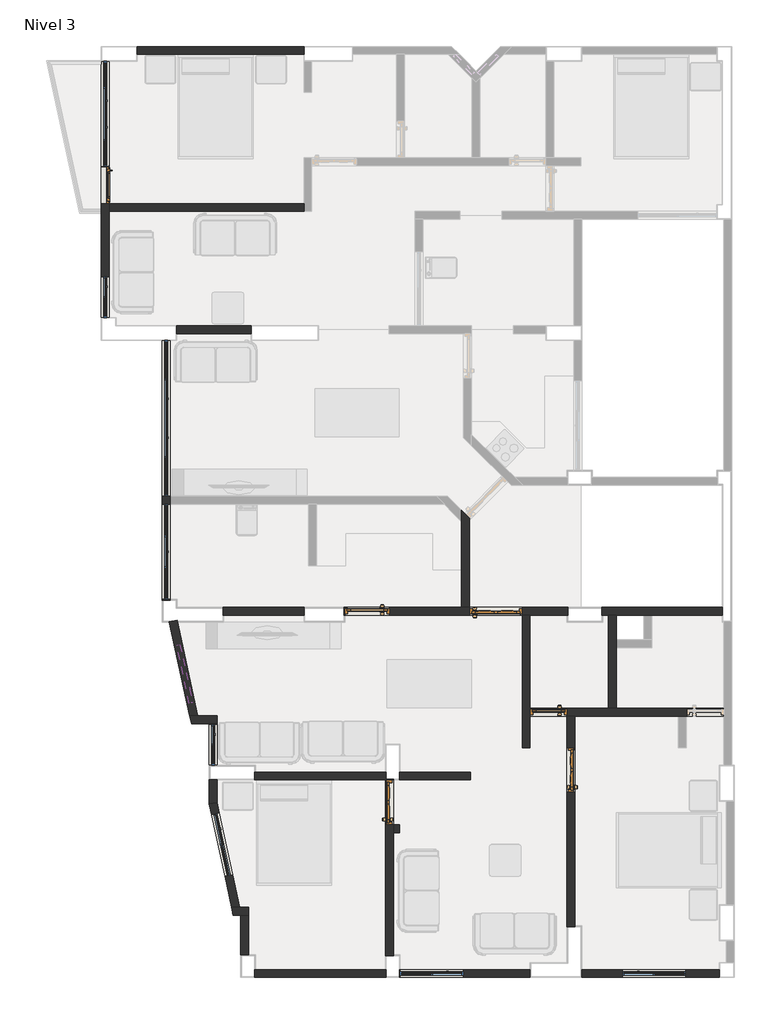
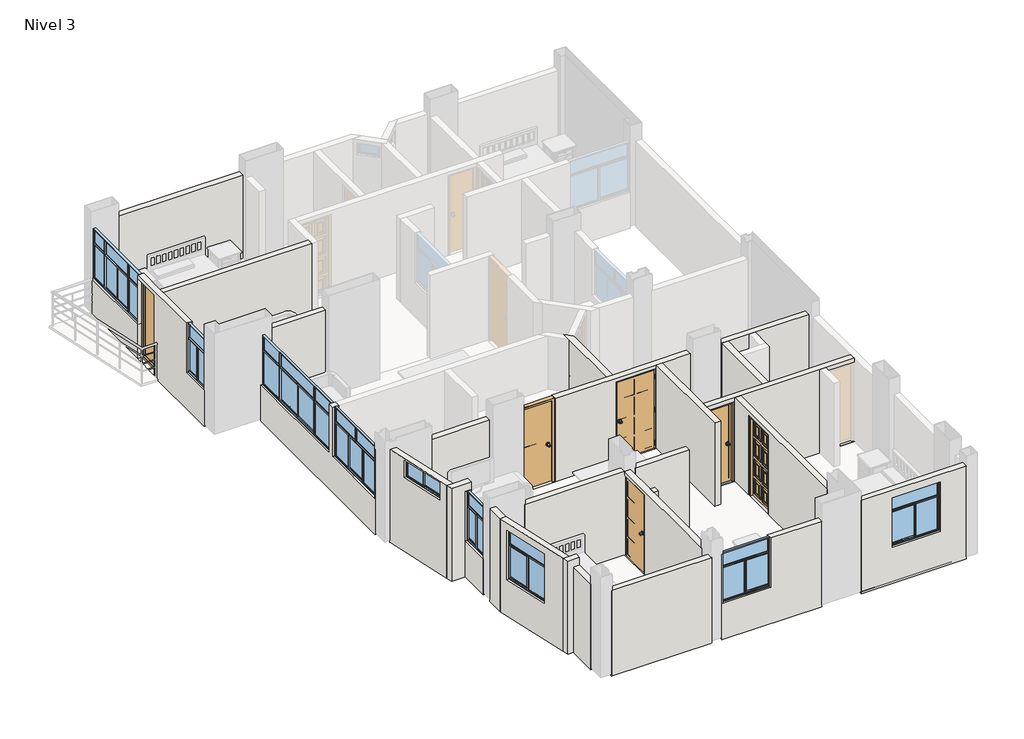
# One storey, part 1 of 4: 27 walls, 9 windows, 6 doors.
"""IFC4 building model written with IfcOpenShell, lengths in millimetres."""

from ifc_helpers import new_model, si_unit, origin, place, context, project, spatial, faceted_brep, transform, mapped, element, save
from components import door_2d542328, door_b74d320c, door_1edce65c, door_bb016787, door_609245de, door_bcd09a2d, p_0_70x2_10_m_c1ecacfd, puerta_interior_pi_0_85x2_10_m_9cadf999, puerta_interior_pi_0_85x2_10_m_c76ccc0d, puerta_interior_pi_0_85x2_10_m_f933acae, puerta_interior_pi_0_85x2_10_m_d21131e5, puerta_interior_pi_0_85x2_10_m_7d8cd98e, puerta_interior_pi_0_85x2_10_m_f147ff4f, puerta_interior_pi_0_85x2_10_m_2af04781, puerta_interior_pi_0_85x2_10_m_c524f691, puerta_interior_pi_1_00x2_10_m_4a7fa07f, puerta_interior_pi_1_00x2_10_m_31410703, puerta_interior_pi_1_00x2_10_m_59491bfe, puerta_interior_pi_1_00x2_10_m_50af7067, va_1_13x0_45_m_8709d312, vb_0_78x1_30_94a928da, vb_1_20x1_30_m_1dcd1d01, vb_1_20x1_30_m_50a12735, vb_1_81x1_30_m_b5e7ee37, vb_2_00x1_30_m_a2a52466, vb_2_96x1_30_m_0cf09963

model = new_model("IFC4")

# Units and contexts
model_context = context("Model", 3, world=origin())
ifc_project = project(units=[si_unit("LENGTHUNIT", "METRE", prefix="MILLI")], contexts=[model_context])

# Site, building, storey
site = spatial("IfcSite", under=ifc_project)
building = spatial("IfcBuilding", under=site)
storey = spatial("IfcBuildingStorey", under=building, Name="Nivel 3", Elevation=5450.0)

# Doors
placement = place(None, origin())
door_shape = door_2d542328(model_context)
door_2_shape = door_b74d320c(model_context)
door_3_shape = door_1edce65c(model_context)
element("IfcDoor", 1, ObjectType="Puerta contraplacada Vaiven : Puerta contraplacada 0.85x2.10 m", at=placement, inside=storey, context=model_context, shape_type="MappedRepresentation", body=[
    mapped(door_shape, transform((2390.0, 6940.0, 5450.0), x_axis=(1.0, 0.0, 0.0), y_axis=(0.0, 1.0, 0.0), z_axis=(0.0, 0.0, 1.0))),
    mapped(door_2_shape, transform((2390.0, 6940.0, 5450.0), x_axis=(1.0, 0.0, 0.0), y_axis=(0.0, 1.0, 0.0), z_axis=(0.0, 0.0, 1.0))),
    mapped(door_3_shape, transform((2390.0, 6940.0, 5450.0), x_axis=(1.0, 0.0, 0.0), y_axis=(0.0, 1.0, 0.0), z_axis=(0.0, 0.0, 1.0))),
])
door_4_shape = door_bb016787(model_context)
door_5_shape = door_609245de(model_context)
door_6_shape = door_bcd09a2d(model_context)
element("IfcDoor", 2, ObjectType="Puerta contraplacada : Puerta contraplacada 0.7x2.10 m", at=placement, inside=storey, context=model_context, shape_type="MappedRepresentation", body=[
    mapped(door_4_shape, transform((5835.0, 5025.0, 5450.0), x_axis=(1.0, 0.0, 0.0), y_axis=(0.0, 1.0, 0.0), z_axis=(0.0, 0.0, 1.0))),
    mapped(door_5_shape, transform((5835.0, 5025.0, 5450.0), x_axis=(1.0, 0.0, 0.0), y_axis=(0.0, 1.0, 0.0), z_axis=(0.0, 0.0, 1.0))),
    mapped(door_6_shape, transform((5835.0, 5025.0, 5450.0), x_axis=(1.0, 0.0, 0.0), y_axis=(0.0, 1.0, 0.0), z_axis=(0.0, 0.0, 1.0))),
])
p_0_70x2_10_m_shape = p_0_70x2_10_m_c1ecacfd(model_context)
element("IfcDoor", 3, ObjectType="Balconera practicable, 1 hoja : P 0.70x2.10 m", at=placement, inside=storey, context=model_context, shape_type="MappedRepresentation", body=[
    mapped(p_0_70x2_10_m_shape, transform((-2590.0, 15033.4801072, 5450.0), x_axis=(0.0, -1.0, 0.0), y_axis=(1.0, 0.0, 0.0), z_axis=(0.0, 0.0, 1.0))),
])
puerta_interior_pi_0_85x2_10_m_shape = puerta_interior_pi_0_85x2_10_m_9cadf999(model_context)
puerta_interior_pi_0_85x2_10_m_2_shape = puerta_interior_pi_0_85x2_10_m_c76ccc0d(model_context)
puerta_interior_pi_0_85x2_10_m_3_shape = puerta_interior_pi_0_85x2_10_m_f933acae(model_context)
puerta_interior_pi_0_85x2_10_m_4_shape = puerta_interior_pi_0_85x2_10_m_d21131e5(model_context)
element("IfcDoor", 4, ObjectType="Puerta Interior : PI_0.85x2.10 m", at=placement, inside=storey, context=model_context, shape_type="MappedRepresentation", body=[
    mapped(puerta_interior_pi_0_85x2_10_m_shape, transform((2810.0, 3310.0, 5450.0), x_axis=(0.0, -1.0, 0.0), y_axis=(1.0, 0.0, 0.0), z_axis=(0.0, 0.0, 1.0))),
    mapped(puerta_interior_pi_0_85x2_10_m_2_shape, transform((2810.0, 3310.0, 5450.0), x_axis=(0.0, -1.0, 0.0), y_axis=(1.0, 0.0, 0.0), z_axis=(0.0, 0.0, 1.0))),
    mapped(puerta_interior_pi_0_85x2_10_m_3_shape, transform((2810.0, 3310.0, 5450.0), x_axis=(0.0, -1.0, 0.0), y_axis=(1.0, 0.0, 0.0), z_axis=(0.0, 0.0, 1.0))),
    mapped(puerta_interior_pi_0_85x2_10_m_4_shape, transform((2810.0, 3310.0, 5450.0), x_axis=(0.0, -1.0, 0.0), y_axis=(1.0, 0.0, 0.0), z_axis=(0.0, 0.0, 1.0))),
])
puerta_interior_pi_0_85x2_10_m_5_shape = puerta_interior_pi_0_85x2_10_m_7d8cd98e(model_context)
puerta_interior_pi_0_85x2_10_m_6_shape = puerta_interior_pi_0_85x2_10_m_f147ff4f(model_context)
puerta_interior_pi_0_85x2_10_m_7_shape = puerta_interior_pi_0_85x2_10_m_2af04781(model_context)
puerta_interior_pi_0_85x2_10_m_8_shape = puerta_interior_pi_0_85x2_10_m_c524f691(model_context)
element("IfcDoor", 5, ObjectType="Puerta Interior : PI_0.85x2.10 m", at=placement, inside=storey, context=model_context, shape_type="MappedRepresentation", body=[
    mapped(puerta_interior_pi_0_85x2_10_m_5_shape, transform((6260.0, 3924.9505997, 5450.0), x_axis=(0.0, -1.0, 0.0), y_axis=(1.0, 0.0, 0.0), z_axis=(0.0, 0.0, 1.0))),
    mapped(puerta_interior_pi_0_85x2_10_m_6_shape, transform((6260.0, 3924.9505997, 5450.0), x_axis=(0.0, -1.0, 0.0), y_axis=(1.0, 0.0, 0.0), z_axis=(0.0, 0.0, 1.0))),
    mapped(puerta_interior_pi_0_85x2_10_m_7_shape, transform((6260.0, 3924.9505997, 5450.0), x_axis=(0.0, -1.0, 0.0), y_axis=(1.0, 0.0, 0.0), z_axis=(0.0, 0.0, 1.0))),
    mapped(puerta_interior_pi_0_85x2_10_m_8_shape, transform((6260.0, 3924.9505997, 5450.0), x_axis=(0.0, -1.0, 0.0), y_axis=(1.0, 0.0, 0.0), z_axis=(0.0, 0.0, 1.0))),
])
puerta_interior_pi_1_00x2_10_m_shape = puerta_interior_pi_1_00x2_10_m_4a7fa07f(model_context)
puerta_interior_pi_1_00x2_10_m_2_shape = puerta_interior_pi_1_00x2_10_m_31410703(model_context)
puerta_interior_pi_1_00x2_10_m_3_shape = puerta_interior_pi_1_00x2_10_m_59491bfe(model_context)
puerta_interior_pi_1_00x2_10_m_4_shape = puerta_interior_pi_1_00x2_10_m_50af7067(model_context)
element("IfcDoor", 6, ObjectType="Puerta Interior : PI_1.00x2.10 m", at=placement, inside=storey, context=model_context, shape_type="MappedRepresentation", body=[
    mapped(puerta_interior_pi_1_00x2_10_m_shape, transform((4835.0, 6940.0, 5450.0), x_axis=(-1.0, 0.0, 0.0), y_axis=(0.0, -1.0, 0.0), z_axis=(0.0, 0.0, 1.0))),
    mapped(puerta_interior_pi_1_00x2_10_m_2_shape, transform((4835.0, 6940.0, 5450.0), x_axis=(-1.0, 0.0, 0.0), y_axis=(0.0, -1.0, 0.0), z_axis=(0.0, 0.0, 1.0))),
    mapped(puerta_interior_pi_1_00x2_10_m_3_shape, transform((4835.0, 6940.0, 5450.0), x_axis=(-1.0, 0.0, 0.0), y_axis=(0.0, -1.0, 0.0), z_axis=(0.0, 0.0, 1.0))),
    mapped(puerta_interior_pi_1_00x2_10_m_4_shape, transform((4835.0, 6940.0, 5450.0), x_axis=(-1.0, 0.0, 0.0), y_axis=(0.0, -1.0, 0.0), z_axis=(0.0, 0.0, 1.0))),
])

# Walls
element("IfcWall", 7, ObjectType="AMS_Muro Interior-Exterior, e=15 cm", at=placement, inside=storey, context=model_context, shape_type="Brep", body=[
    faceted_brep([(-1985.0, 17515.0, 5400.0), (1185.0, 17515.0, 5400.0), (1185.0, 17515.0, 7650.0), (-1985.0, 17515.0, 7650.0), (-1985.0, 17665.0, 5400.0), (-1985.0, 17665.0, 5450.0), (-1985.0, 17665.0, 7650.0), (1185.0, 17665.0, 7650.0), (1185.0, 17665.0, 5450.0), (1185.0, 17665.0, 5400.0)], [[[0, 1, 2, 3]], [[4, 5, 6, 7, 8, 9]], [[1, 0, 4, 9]], [[2, 1, 9, 8, 7]], [[3, 2, 7, 6]], [[0, 3, 6, 5, 4]]]),
])
element("IfcWall", 8, ObjectType="AMS_Muro Interior-Interior, e=15 cm", at=placement, inside=storey, context=model_context, shape_type="Brep", body=[
    faceted_brep([(1185.0, 14683.4801072, 5400.0), (-2515.0, 14683.4801072, 5400.0), (-2515.0, 14683.4801072, 5450.0), (-2515.0, 14683.4801072, 7550.0), (-2515.0, 14683.4801072, 7650.0), (1185.0, 14683.4801072, 7650.0), (1185.0, 14533.4801072, 5400.0), (1185.0, 14533.4801072, 7650.0), (-2515.0, 14533.4801072, 7650.0), (-2515.0, 14533.4801072, 5400.0)], [[[0, 1, 2, 3, 4, 5]], [[6, 7, 8, 9]], [[1, 0, 6, 9]], [[5, 4, 8, 7]], [[0, 5, 7, 6]], [[4, 3, 2, 1, 9, 8]]]),
])
element("IfcWall", 9, ObjectType="AMS_Muro Interior-Exterior, e=15 cm", at=placement, inside=storey, context=model_context, shape_type="Brep", body=[
    faceted_brep([(-2515.0, 12515.0, 5400.0), (-2515.0, 14533.4801072, 5400.0), (-2515.0, 14683.4801072, 5400.0), (-2515.0, 17385.0, 5400.0), (-2515.0, 17385.0, 6350.0), (-2515.0, 15385.0, 6350.0), (-2515.0, 15385.0, 7650.0), (-2515.0, 14683.4801072, 7650.0), (-2515.0, 14533.4801072, 7650.0), (-2515.0, 13295.0, 7650.0), (-2515.0, 13295.0, 6350.0), (-2515.0, 12515.0, 6350.0), (-2515.0, 14683.4801072, 5450.0), (-2515.0, 14683.4801072, 7550.0), (-2515.0, 15383.4801072, 7550.0), (-2515.0, 15383.4801072, 5450.0), (-2665.0, 17385.0, 5400.0), (-2665.0, 12515.0, 5400.0), (-2665.0, 12515.0, 5450.0), (-2665.0, 12515.0, 6350.0), (-2665.0, 13295.0, 6350.0), (-2665.0, 13295.0, 7650.0), (-2665.0, 15385.0, 7650.0), (-2665.0, 15385.0, 6350.0), (-2665.0, 17385.0, 6350.0), (-2665.0, 17385.0, 5450.0), (-2665.0, 14683.4801072, 5450.0), (-2665.0, 15383.4801072, 5450.0), (-2665.0, 15383.4801072, 7550.0), (-2665.0, 14683.4801072, 7550.0)], [[[0, 1, 2, 3, 4, 5, 6, 7, 8, 9, 10, 11], [12, 13, 14, 15]], [[16, 17, 18, 19, 20, 21, 22, 23, 24, 25], [26, 27, 28, 29]], [[3, 2, 1, 0, 17, 16]], [[3, 16, 25, 24, 4]], [[21, 9, 8, 7, 6, 22]], [[17, 0, 11, 19, 18]], [[20, 10, 9, 21]], [[10, 20, 19, 11]], [[5, 23, 22, 6]], [[23, 5, 4, 24]], [[13, 12, 26, 29]], [[14, 13, 29, 28]], [[15, 14, 28, 27]], [[12, 15, 27, 26]]]),
])
element("IfcWall", 10, ObjectType="AMS_Muro Interior-Interior, e=15 cm", at=placement, inside=storey, context=model_context, shape_type="Brep", body=[
    faceted_brep([(-1235.0, 12215.0, 5400.0), (185.0, 12215.0, 5400.0), (185.0, 12215.0, 7650.0), (-1235.0, 12215.0, 7650.0), (-1235.0, 12365.0, 5400.0), (-1235.0, 12365.0, 5450.0), (-1235.0, 12365.0, 7650.0), (185.0, 12365.0, 7650.0), (185.0, 12365.0, 5450.0), (185.0, 12365.0, 5400.0)], [[[0, 1, 2, 3]], [[4, 5, 6, 7, 8, 9]], [[1, 0, 4, 9]], [[2, 1, 9, 8, 7]], [[3, 2, 7, 6]], [[0, 3, 6, 5, 4]]]),
])
element("IfcWall", 11, ObjectType="AMS_Muro Interior-Interior, e=15 cm", at=placement, inside=storey, context=model_context, shape_type="Brep", body=[
    faceted_brep([(4335.0, 7015.0, 5400.0), (4335.0, 8670.8159799, 5400.0), (4335.0, 8705.2632339, 5400.0), (4335.0, 8705.2632339, 7650.0), (4335.0, 8670.8159799, 7650.0), (4335.0, 7015.0, 7650.0), (4335.0, 7015.0, 7550.0), (4335.0, 7015.0, 5450.0), (4185.0, 7015.0, 5400.0), (4185.0, 7015.0, 7650.0), (4185.0, 8643.1311996, 7650.0), (4185.0, 8855.2632339, 7650.0), (4185.0, 8855.2632339, 5400.0), (4185.0, 8643.1311996, 5400.0), (4246.0541754, 8794.2090586, 5400.0), (4246.0541754, 8794.2090586, 7650.0)], [[[0, 1, 2, 3, 4, 5, 6, 7]], [[8, 9, 10, 11, 12, 13]], [[2, 1, 0, 8, 13, 12, 14]], [[5, 4, 3, 15, 11, 10, 9]], [[3, 2, 14, 12, 11, 15]], [[0, 7, 6, 5, 9, 8]]]),
])
element("IfcWall", 12, ObjectType="AMS_Muro Interior-Exterior, e=15 cm", at=placement, inside=storey, context=model_context, shape_type="Brep", body=[
    faceted_brep([(-1355.0, 7150.0, 5400.0), (-1355.0, 7165.0, 5400.0), (-1355.0, 8975.0, 5400.0), (-1355.0, 9125.0, 5400.0), (-1355.0, 12085.0, 5400.0), (-1355.0, 12085.0, 6350.0), (-1355.0, 9125.0, 6350.0), (-1355.0, 9125.0, 7650.0), (-1355.0, 8975.0, 7650.0), (-1355.0, 8975.0, 6350.0), (-1355.0, 7165.0, 6350.0), (-1355.0, 7165.0, 7650.0), (-1355.0, 7150.0, 7650.0), (-1355.0, 7150.0, 5450.0), (-1505.0, 12085.0, 5400.0), (-1505.0, 7165.0, 5400.0), (-1505.0, 7150.0, 5400.0), (-1505.0, 7150.0, 5450.0), (-1505.0, 7150.0, 7650.0), (-1505.0, 7165.0, 7650.0), (-1505.0, 7165.0, 6350.0), (-1505.0, 8975.0, 6350.0), (-1505.0, 8975.0, 7650.0), (-1505.0, 9125.0, 7650.0), (-1505.0, 9125.0, 6350.0), (-1505.0, 12085.0, 6350.0), (-1490.0, 7150.0, 5400.0), (-1490.0, 7150.0, 7650.0)], [[[0, 1, 2, 3, 4, 5, 6, 7, 8, 9, 10, 11, 12, 13]], [[14, 15, 16, 17, 18, 19, 20, 21, 22, 23, 24, 25]], [[4, 3, 2, 1, 0, 26, 16, 15, 14]], [[4, 14, 25, 5]], [[18, 27, 12, 11, 19]], [[22, 8, 7, 23]], [[0, 13, 12, 27, 18, 17, 16, 26]], [[6, 24, 23, 7]], [[24, 6, 5, 25]], [[22, 21, 9, 8]], [[20, 19, 11, 10]], [[21, 20, 10, 9]]]),
])
element("IfcWall", 13, ObjectType="AMS_Muro Interior-Interior, e=15 cm", at=placement, inside=storey, context=model_context, shape_type="Brep", body=[
    faceted_brep([(9135.0, 7015.0, 5400.0), (6865.0, 7015.0, 5400.0), (6850.0, 7015.0, 5400.0), (6850.0, 7015.0, 5450.0), (6850.0, 7015.0, 7650.0), (6865.0, 7015.0, 7650.0), (9135.0, 7015.0, 7650.0), (9135.0, 6865.0, 5400.0), (9135.0, 6865.0, 7650.0), (7798.1159652, 6865.0, 7650.0), (7648.1159652, 6865.0, 7650.0), (7123.0216492, 6865.0, 7650.0), (6973.0216492, 6865.0, 7650.0), (6865.0, 6865.0, 7650.0), (6850.0, 6865.0, 7650.0), (6850.0, 6865.0, 5450.0), (6850.0, 6865.0, 5400.0), (6865.0, 6865.0, 5400.0), (6973.0216492, 6865.0, 5400.0), (7123.0216492, 6865.0, 5400.0), (7648.1159652, 6865.0, 5400.0), (7798.1159652, 6865.0, 5400.0), (6850.0, 7000.0, 5400.0), (6850.0, 7000.0, 7650.0)], [[[0, 1, 2, 3, 4, 5, 6]], [[7, 8, 9, 10, 11, 12, 13, 14, 15, 16, 17, 18, 19, 20, 21]], [[2, 1, 0, 7, 21, 20, 19, 18, 17, 16, 22]], [[4, 3, 2, 22, 16, 15, 14, 23]], [[6, 5, 4, 23, 14, 13, 12, 11, 10, 9, 8]], [[0, 6, 8, 7]]]),
])
element("IfcWall", 14, ObjectType="AMS_Muro Interior-Interior, e=15 cm", at=placement, inside=storey, context=model_context, shape_type="Brep", body=[
    faceted_brep([(5485.0, 4350.0, 5400.0), (5485.0, 4950.0, 5400.0), (5485.0, 5100.0, 5400.0), (5485.0, 6865.0, 5400.0), (5485.0, 6865.0, 7650.0), (5485.0, 5100.0, 7650.0), (5485.0, 4950.0, 7650.0), (5485.0, 4350.0, 7650.0), (5335.0, 4350.0, 5400.0), (5335.0, 4350.0, 7650.0), (5335.0, 6865.0, 7650.0), (5335.0, 6865.0, 7550.0), (5335.0, 6865.0, 5450.0), (5335.0, 6865.0, 5400.0)], [[[0, 1, 2, 3, 4, 5, 6, 7]], [[8, 9, 10, 11, 12, 13]], [[3, 2, 1, 0, 8, 13]], [[7, 6, 5, 4, 10, 9]], [[0, 7, 9, 8]], [[4, 3, 13, 12, 11, 10]]]),
])
element("IfcWall", 15, ObjectType="AMS_Muro Interior-Interior, e=15 cm", at=placement, inside=storey, context=model_context, shape_type="Brep", body=[
    faceted_brep([(1965.0, 6865.0, 5450.0), (1965.0, 6865.0, 7650.0), (1950.0, 6865.0, 7650.0), (1950.0, 6865.0, 5450.0), (1950.0, 6865.0, 5400.0), (1965.0, 6865.0, 5400.0), (5335.0, 6865.0, 5400.0), (5485.0, 6865.0, 5400.0), (6185.0, 6865.0, 5400.0), (6200.0, 6865.0, 5400.0), (6200.0, 6865.0, 5450.0), (6200.0, 6865.0, 7650.0), (6185.0, 6865.0, 7650.0), (5485.0, 6865.0, 7650.0), (5335.0, 6865.0, 7650.0), (2815.0, 6865.0, 7650.0), (2815.0, 6865.0, 5450.0), (4335.0, 6865.0, 5450.0), (4335.0, 6865.0, 7550.0), (5335.0, 6865.0, 7550.0), (5335.0, 6865.0, 5450.0), (1950.0, 7015.0, 7650.0), (1965.0, 7015.0, 7650.0), (1965.0, 7015.0, 5450.0), (2815.0, 7015.0, 5450.0), (2815.0, 7015.0, 7650.0), (4185.0, 7015.0, 7650.0), (4335.0, 7015.0, 7650.0), (6185.0, 7015.0, 7650.0), (6200.0, 7015.0, 7650.0), (6200.0, 7015.0, 5450.0), (6200.0, 7015.0, 5400.0), (6185.0, 7015.0, 5400.0), (4335.0, 7015.0, 5400.0), (4185.0, 7015.0, 5400.0), (1965.0, 7015.0, 5400.0), (1950.0, 7015.0, 5400.0), (1950.0, 7015.0, 5450.0), (4335.0, 7015.0, 5450.0), (5335.0, 7015.0, 5450.0), (5335.0, 7015.0, 7550.0), (4335.0, 7015.0, 7550.0), (1950.0, 7000.0, 5400.0), (6200.0, 7000.0, 5400.0), (6200.0, 7000.0, 7650.0), (1950.0, 7000.0, 7650.0)], [[[0, 1, 2, 3, 4, 5, 6, 7, 8, 9, 10, 11, 12, 13, 14, 15, 16], [17, 18, 19, 20]], [[21, 22, 23, 24, 25, 26, 27, 28, 29, 30, 31, 32, 33, 34, 35, 36, 37], [38, 39, 40, 41]], [[9, 8, 7, 6, 5, 4, 42, 36, 35, 34, 33, 32, 31, 43]], [[11, 10, 9, 43, 31, 30, 29, 44]], [[15, 14, 13, 12, 11, 44, 29, 28, 27, 26, 25]], [[2, 1, 22, 21, 45]], [[4, 3, 2, 45, 21, 37, 36, 42]], [[18, 17, 38, 41]], [[19, 18, 41, 40]], [[20, 19, 40, 39]], [[17, 20, 39, 38]], [[25, 24, 16, 15]], [[23, 22, 1, 0]], [[24, 23, 0, 16]]]),
])
element("IfcWall", 16, ObjectType="AMS_Muro Interior-Interior, e=15 cm", at=placement, inside=storey, context=model_context, shape_type="Brep", body=[
    faceted_brep([(6335.0, 950.0, 5400.0), (6335.0, 965.0, 5400.0), (6335.0, 4950.0, 5400.0), (6335.0, 4950.0, 7650.0), (6335.0, 965.0, 7650.0), (6335.0, 950.0, 7650.0), (6335.0, 950.0, 5450.0), (6335.0, 3499.9505997, 5450.0), (6335.0, 3499.9505997, 7550.0), (6335.0, 4349.9505997, 7550.0), (6335.0, 4349.9505997, 5450.0), (6185.0, 950.0, 5400.0), (6185.0, 950.0, 5450.0), (6185.0, 950.0, 7650.0), (6185.0, 965.0, 7650.0), (6185.0, 4950.0, 7650.0), (6185.0, 4950.0, 7550.0), (6185.0, 4950.0, 5450.0), (6185.0, 4950.0, 5400.0), (6185.0, 965.0, 5400.0), (6185.0, 3499.9505997, 5450.0), (6185.0, 4349.9505997, 5450.0), (6185.0, 4349.9505997, 7550.0), (6185.0, 3499.9505997, 7550.0), (6200.0, 950.0, 5400.0), (6200.0, 950.0, 7650.0)], [[[0, 1, 2, 3, 4, 5, 6], [7, 8, 9, 10]], [[11, 12, 13, 14, 15, 16, 17, 18, 19], [20, 21, 22, 23]], [[2, 1, 0, 24, 11, 19, 18]], [[5, 4, 3, 15, 14, 13, 25]], [[0, 6, 5, 25, 13, 12, 11, 24]], [[3, 2, 18, 17, 16, 15]], [[8, 7, 20, 23]], [[9, 8, 23, 22]], [[10, 9, 22, 21]], [[7, 10, 21, 20]]]),
])
element("IfcWall", 17, ObjectType="AMS_Muro Interior-Interior, e=15 cm", at=placement, inside=storey, context=model_context, shape_type="Brep", body=[
    faceted_brep([(9165.0, 4950.0, 5400.0), (9165.0, 4950.0, 5450.0), (8465.0, 4950.0, 5450.0), (8465.0, 4950.0, 7550.0), (9165.0, 4950.0, 7550.0), (9165.0, 4950.0, 7650.0), (8450.0, 4950.0, 7650.0), (8300.0, 4950.0, 7650.0), (6335.0, 4950.0, 7650.0), (6185.0, 4950.0, 7650.0), (5485.0, 4950.0, 7650.0), (5485.0, 4950.0, 7550.0), (6185.0, 4950.0, 7550.0), (6185.0, 4950.0, 5450.0), (5485.0, 4950.0, 5450.0), (5485.0, 4950.0, 5400.0), (6185.0, 4950.0, 5400.0), (6335.0, 4950.0, 5400.0), (8300.0, 4950.0, 5400.0), (8450.0, 4950.0, 5400.0), (8465.0, 5100.0, 5450.0), (9165.0, 5100.0, 5450.0), (9165.0, 5100.0, 5400.0), (7123.0216492, 5100.0, 5400.0), (6973.0216492, 5100.0, 5400.0), (5485.0, 5100.0, 5400.0), (5485.0, 5100.0, 5450.0), (6185.0, 5100.0, 5450.0), (6185.0, 5100.0, 7550.0), (5485.0, 5100.0, 7550.0), (5485.0, 5100.0, 7650.0), (6973.0216492, 5100.0, 7650.0), (7123.0216492, 5100.0, 7650.0), (9165.0, 5100.0, 7650.0), (9165.0, 5100.0, 7550.0), (8465.0, 5100.0, 7550.0)], [[[0, 1, 2, 3, 4, 5, 6, 7, 8, 9, 10, 11, 12, 13, 14, 15, 16, 17, 18, 19]], [[20, 21, 22, 23, 24, 25, 26, 27, 28, 29, 30, 31, 32, 33, 34, 35]], [[0, 19, 18, 17, 16, 15, 25, 24, 23, 22]], [[10, 9, 8, 7, 6, 5, 33, 32, 31, 30]], [[34, 33, 5, 4]], [[22, 21, 1, 0]], [[10, 30, 29, 11]], [[25, 15, 14, 26]], [[3, 2, 20, 35]], [[4, 3, 35, 34]], [[2, 1, 21, 20]], [[27, 13, 12, 28]], [[28, 12, 11, 29]], [[13, 27, 26, 14]]]),
])
element("IfcWall", 18, ObjectType="AMS_Muro Interior-Interior, e=15 cm", at=placement, inside=storey, context=model_context, shape_type="Brep", body=[
    faceted_brep([(7123.0216492, 5100.0, 5400.0), (7123.0216492, 6250.0, 5400.0), (7123.0216492, 6400.0, 5400.0), (7123.0216492, 6865.0, 5400.0), (7123.0216492, 6865.0, 7650.0), (7123.0216492, 6400.0, 7650.0), (7123.0216492, 6250.0, 7650.0), (7123.0216492, 5100.0, 7650.0), (6973.0216492, 5100.0, 5400.0), (6973.0216492, 5100.0, 7650.0), (6973.0216492, 6865.0, 7650.0), (6973.0216492, 6865.0, 5400.0)], [[[0, 1, 2, 3, 4, 5, 6, 7]], [[8, 9, 10, 11]], [[3, 2, 1, 0, 8, 11]], [[7, 6, 5, 4, 10, 9]], [[4, 3, 11, 10]], [[0, 7, 9, 8]]]),
])
element("IfcWall", 19, ObjectType="AMS_Muro Interior-Interior, e=15 cm", at=placement, inside=storey, context=model_context, shape_type="Brep", body=[
    faceted_brep([(1185.0, 7015.0, 5400.0), (-335.0, 7015.0, 5400.0), (-350.0, 7015.0, 5400.0), (-350.0, 7015.0, 5450.0), (-350.0, 7015.0, 7650.0), (-335.0, 7015.0, 7650.0), (1185.0, 7015.0, 7650.0), (1185.0, 7015.0, 5450.0), (1185.0, 6865.0, 5400.0), (1185.0, 6865.0, 7650.0), (-335.0, 6865.0, 7650.0), (-350.0, 6865.0, 7650.0), (-350.0, 6865.0, 5450.0), (-350.0, 6865.0, 5400.0), (-335.0, 6865.0, 5400.0), (-350.0, 7000.0, 5400.0), (-350.0, 7000.0, 7650.0)], [[[0, 1, 2, 3, 4, 5, 6, 7]], [[8, 9, 10, 11, 12, 13, 14]], [[2, 1, 0, 8, 14, 13, 15]], [[4, 3, 2, 15, 13, 12, 11, 16]], [[6, 5, 4, 16, 11, 10, 9]], [[0, 7, 6, 9, 8]]]),
])
element("IfcWall", 20, ObjectType="AMS_Muro Interior-Interior, e=15 cm", at=placement, inside=storey, context=model_context, shape_type="Brep", body=[
    faceted_brep([(4352.1220375, 3885.0, 5400.0), (3015.0, 3885.0, 5400.0), (3000.0, 3885.0, 5400.0), (3000.0, 3885.0, 5450.0), (3000.0, 3885.0, 7650.0), (3015.0, 3885.0, 7650.0), (4352.1220375, 3885.0, 7650.0), (4352.1220375, 3735.0, 5400.0), (4352.1220375, 3735.0, 7650.0), (3015.0, 3735.0, 7650.0), (3000.0, 3735.0, 7650.0), (3000.0, 3735.0, 5450.0), (3000.0, 3735.0, 5400.0), (3015.0, 3735.0, 5400.0), (3000.0, 3750.0, 5400.0), (3000.0, 3750.0, 7650.0)], [[[0, 1, 2, 3, 4, 5, 6]], [[7, 8, 9, 10, 11, 12, 13]], [[2, 1, 0, 7, 13, 12, 14]], [[4, 3, 2, 14, 12, 11, 10, 15]], [[6, 5, 4, 15, 10, 9, 8]], [[0, 6, 8, 7]]]),
])
element("IfcWall", 21, ObjectType="AMS_Muro Interior-Interior, e=15 cm", at=placement, inside=storey, context=model_context, shape_type="Brep", body=[
    faceted_brep([(2750.0, 3885.0, 5400.0), (2735.0, 3885.0, 5400.0), (265.0, 3885.0, 5400.0), (250.0, 3885.0, 5400.0), (250.0, 3885.0, 5450.0), (250.0, 3885.0, 7650.0), (265.0, 3885.0, 7650.0), (2735.0, 3885.0, 7650.0), (2750.0, 3885.0, 7650.0), (2750.0, 3885.0, 5450.0), (2750.0, 3735.0, 5400.0), (2750.0, 3735.0, 7650.0), (2735.0, 3735.0, 7650.0), (265.0, 3735.0, 7650.0), (250.0, 3735.0, 7650.0), (250.0, 3735.0, 5450.0), (250.0, 3735.0, 5400.0), (265.0, 3735.0, 5400.0), (2735.0, 3735.0, 5400.0), (2750.0, 3750.0, 5400.0), (250.0, 3750.0, 5400.0), (250.0, 3750.0, 7650.0), (2750.0, 3750.0, 7650.0)], [[[0, 1, 2, 3, 4, 5, 6, 7, 8, 9]], [[10, 11, 12, 13, 14, 15, 16, 17, 18]], [[3, 2, 1, 0, 19, 10, 18, 17, 16, 20]], [[5, 4, 3, 20, 16, 15, 14, 21]], [[8, 7, 6, 5, 21, 14, 13, 12, 11, 22]], [[0, 9, 8, 22, 11, 10, 19]]]),
])
element("IfcWall", 22, ObjectType="AMS_Muro Interior-Interior, e=15 cm", at=placement, inside=storey, context=model_context, shape_type="Brep", body=[
    faceted_brep([(2885.0, 400.0, 5400.0), (2885.0, 415.0, 5400.0), (2885.0, 2735.0, 5400.0), (2885.0, 2885.0, 5400.0), (2885.0, 3735.0, 5400.0), (2885.0, 3750.0, 5400.0), (2885.0, 3750.0, 5450.0), (2885.0, 3750.0, 7650.0), (2885.0, 3735.0, 7650.0), (2885.0, 2885.0, 7650.0), (2885.0, 2735.0, 7650.0), (2885.0, 415.0, 7650.0), (2885.0, 400.0, 7650.0), (2885.0, 400.0, 5450.0), (2885.0, 2885.0, 5450.0), (2885.0, 2885.0, 7550.0), (2885.0, 3735.0, 7550.0), (2885.0, 3735.0, 5450.0), (2735.0, 400.0, 5400.0), (2735.0, 400.0, 5450.0), (2735.0, 400.0, 7650.0), (2735.0, 415.0, 7650.0), (2735.0, 3735.0, 7650.0), (2735.0, 3750.0, 7650.0), (2735.0, 3750.0, 5400.0), (2735.0, 3735.0, 5400.0), (2735.0, 415.0, 5400.0), (2735.0, 2885.0, 5450.0), (2735.0, 3735.0, 5450.0), (2735.0, 3735.0, 7550.0), (2735.0, 2885.0, 7550.0), (2750.0, 400.0, 5400.0), (2750.0, 3750.0, 5400.0), (2750.0, 3750.0, 7650.0), (2750.0, 400.0, 7650.0)], [[[0, 1, 2, 3, 4, 5, 6, 7, 8, 9, 10, 11, 12, 13], [14, 15, 16, 17]], [[18, 19, 20, 21, 22, 23, 24, 25, 26], [27, 28, 29, 30]], [[5, 4, 3, 2, 1, 0, 31, 18, 26, 25, 24, 32]], [[7, 6, 5, 32, 24, 23, 33]], [[12, 11, 10, 9, 8, 7, 33, 23, 22, 21, 20, 34]], [[0, 13, 12, 34, 20, 19, 18, 31]], [[15, 14, 27, 30]], [[16, 15, 30, 29]], [[17, 16, 29, 28]], [[14, 17, 28, 27]]]),
])
element("IfcWall", 23, ObjectType="AMS_Muro Interior-Interior, e=15 cm", at=placement, inside=storey, context=model_context, shape_type="Brep", body=[
    faceted_brep([(2885.0, 2735.0, 5400.0), (3000.0, 2735.0, 5400.0), (3000.0, 2735.0, 7650.0), (2885.0, 2735.0, 7650.0), (2885.0, 2885.0, 5400.0), (2885.0, 2885.0, 5450.0), (2885.0, 2885.0, 7550.0), (2885.0, 2885.0, 7650.0), (3000.0, 2885.0, 7650.0), (3000.0, 2885.0, 5400.0)], [[[0, 1, 2, 3]], [[4, 5, 6, 7, 8, 9]], [[1, 0, 4, 9]], [[2, 1, 9, 8]], [[3, 2, 8, 7]], [[0, 3, 7, 6, 5, 4]]]),
])
element("IfcWall", 24, ObjectType="AMS_Muro Interior-Exterior, e=15 cm", at=placement, inside=storey, context=model_context, shape_type="Brep", body=[
    faceted_brep([(2750.0, 135.0, 5400.0), (2735.0, 135.0, 5400.0), (265.0, 135.0, 5400.0), (250.0, 135.0, 5400.0), (250.0, 135.0, 5450.0), (250.0, 135.0, 7650.0), (265.0, 135.0, 7650.0), (2735.0, 135.0, 7650.0), (2750.0, 135.0, 7650.0), (2750.0, 135.0, 5450.0), (2750.0, -15.0, 5400.0), (2750.0, -15.0, 5450.0), (2750.0, -15.0, 7650.0), (2735.0, -15.0, 7650.0), (265.0, -15.0, 7650.0), (250.0, -15.0, 7650.0), (250.0, -15.0, 5450.0), (250.0, -15.0, 5400.0), (265.0, -15.0, 5400.0), (2735.0, -15.0, 5400.0), (2750.0, 0.0, 5400.0), (250.0, 0.0, 5400.0), (250.0, 0.0, 7650.0), (2750.0, 0.0, 7650.0)], [[[0, 1, 2, 3, 4, 5, 6, 7, 8, 9]], [[10, 11, 12, 13, 14, 15, 16, 17, 18, 19]], [[3, 2, 1, 0, 20, 10, 19, 18, 17, 21]], [[5, 4, 3, 21, 17, 16, 15, 22]], [[8, 7, 6, 5, 22, 15, 14, 13, 12, 23]], [[0, 9, 8, 23, 12, 11, 10, 20]]]),
])
element("IfcWall", 25, ObjectType="AMS_Muro Interior-Exterior, e=15 cm", at=placement, inside=storey, context=model_context, shape_type="Brep", body=[
    faceted_brep([(3000.0, 135.0, 7650.0), (3015.0, 135.0, 7650.0), (3015.0, 135.0, 6350.0), (4215.0, 135.0, 6350.0), (4215.0, 135.0, 7650.0), (5485.0, 135.0, 7650.0), (5485.0, 135.0, 5400.0), (3015.0, 135.0, 5400.0), (3000.0, 135.0, 5400.0), (3000.0, 135.0, 5450.0), (3015.0, -15.0, 6350.0), (3015.0, -15.0, 7650.0), (3000.0, -15.0, 7650.0), (3000.0, -15.0, 5450.0), (3000.0, -15.0, 5400.0), (3015.0, -15.0, 5400.0), (5485.0, -15.0, 5400.0), (5485.0, -15.0, 5450.0), (5485.0, -15.0, 7650.0), (4215.0, -15.0, 7650.0), (4215.0, -15.0, 6350.0), (3000.0, 0.0, 5400.0), (3000.0, 0.0, 7650.0)], [[[0, 1, 2, 3, 4, 5, 6, 7, 8, 9]], [[10, 11, 12, 13, 14, 15, 16, 17, 18, 19, 20]], [[8, 7, 6, 16, 15, 14, 21]], [[0, 9, 8, 21, 14, 13, 12, 22]], [[19, 18, 5, 4]], [[12, 11, 1, 0, 22]], [[6, 5, 18, 17, 16]], [[4, 3, 20, 19]], [[2, 1, 11, 10]], [[3, 2, 10, 20]]]),
])
element("IfcWall", 26, ObjectType="AMS_Muro Interior-Exterior, e=15 cm", at=placement, inside=storey, context=model_context, shape_type="Brep", body=[
    faceted_brep([(135.0, 415.0, 5400.0), (135.0, 1170.0, 5400.0), (135.0, 1170.0, 7650.0), (135.0, 415.0, 7650.0), (-15.0, 415.0, 5400.0), (-15.0, 415.0, 5450.0), (-15.0, 415.0, 7650.0), (-15.0, 1170.0, 7650.0), (-15.0, 1170.0, 5400.0)], [[[0, 1, 2, 3]], [[4, 5, 6, 7, 8]], [[1, 0, 4, 8]], [[3, 2, 7, 6]], [[0, 3, 6, 5, 4]], [[2, 1, 8, 7]]]),
])
element("IfcWall", 27, ObjectType="AMS_Muro Interior-Exterior, e=15 cm", at=placement, inside=storey, context=model_context, shape_type="Brep", body=[
    faceted_brep([(135.0, 1320.0, 5400.0), (-35.0804526, 1320.0, 5400.0), (-188.5653574, 1320.0, 5400.0), (-188.5653574, 1320.0, 7850.0), (-35.0804526, 1320.0, 7850.0), (135.0, 1320.0, 7850.0), (135.0, 1170.0, 5400.0), (135.0, 1170.0, 7650.0), (135.0, 1170.0, 7850.0), (-156.044349, 1170.0, 7850.0), (-156.044349, 1170.0, 5400.0), (-15.0, 1170.0, 5400.0)], [[[0, 1, 2, 3, 4, 5]], [[6, 7, 8, 9, 10, 11]], [[2, 1, 0, 6, 11, 10]], [[5, 4, 3, 9, 8]], [[0, 5, 8, 7, 6]], [[3, 2, 10, 9]]]),
])
element("IfcWall", 28, ObjectType="AMS_Muro Interior-Exterior, e=15 cm", at=placement, inside=storey, context=model_context, shape_type="Brep", body=[
    faceted_brep([(-35.0804526, 1320.0, 5400.0), (-465.0, 3302.9622535, 5400.0), (-465.0, 3302.9622535, 7850.0), (-35.0804526, 1320.0, 7850.0), (-423.1760822, 3110.0534854, 6350.0), (-168.9151818, 1937.2997199, 6350.0), (-168.9151818, 1937.2997199, 7650.0), (-423.1760822, 3110.0534854, 7650.0), (-188.5653574, 1320.0, 5400.0), (-188.5653574, 1320.0, 7850.0), (-615.0, 3286.888468, 7850.0), (-615.0, 3286.888468, 5400.0), (-569.7703029, 3078.2708729, 6350.0), (-569.7703029, 3078.2708729, 7650.0), (-315.5094025, 1905.5171074, 7650.0), (-315.5094025, 1905.5171074, 6350.0)], [[[0, 1, 2, 3], [4, 5, 6, 7]], [[8, 9, 10, 11], [12, 13, 14, 15]], [[1, 0, 8, 11]], [[3, 2, 10, 9]], [[0, 3, 9, 8]], [[2, 1, 11, 10]], [[13, 12, 4, 7]], [[14, 13, 7, 6]], [[15, 14, 6, 5]], [[12, 15, 5, 4]]]),
])
element("IfcWall", 29, ObjectType="AMS_Muro Interior-Exterior, e=15 cm", at=placement, inside=storey, context=model_context, shape_type="Brep", body=[
    faceted_brep([(-615.0, 3735.0, 5400.0), (-615.0, 3286.888468, 5400.0), (-615.0, 3286.888468, 7850.0), (-615.0, 3735.0, 7850.0), (-615.0, 3735.0, 5450.0), (-465.0, 3735.0, 5400.0), (-465.0, 3735.0, 7850.0), (-465.0, 3302.9622535, 7850.0), (-465.0, 3302.9622535, 5400.0)], [[[0, 1, 2, 3, 4]], [[5, 6, 7, 8]], [[1, 0, 5, 8]], [[3, 2, 7, 6]], [[0, 4, 3, 6, 5]], [[2, 1, 8, 7]]]),
])
element("IfcWall", 30, ObjectType="AMS_Muro Interior-Exterior, e=15 cm", at=placement, inside=storey, context=model_context, shape_type="Brep", body=[
    faceted_brep([(-465.0, 4015.0, 5400.0), (-465.0, 4800.7253635, 5400.0), (-465.0, 4800.7253635, 7650.0), (-465.0, 4795.0, 7650.0), (-465.0, 4795.0, 6350.0), (-465.0, 4015.0, 6350.0), (-615.0, 4800.7253635, 5400.0), (-615.0, 4015.0, 5400.0), (-615.0, 4015.0, 5450.0), (-615.0, 4015.0, 6350.0), (-615.0, 4795.0, 6350.0), (-615.0, 4795.0, 7650.0), (-615.0, 4800.7253635, 7650.0)], [[[0, 1, 2, 3, 4, 5]], [[6, 7, 8, 9, 10, 11, 12]], [[1, 0, 7, 6]], [[2, 12, 11, 3]], [[7, 0, 5, 9, 8]], [[2, 1, 6, 12]], [[10, 4, 3, 11]], [[4, 10, 9, 5]]]),
])
element("IfcWall", 31, ObjectType="AMS_Muro Interior-Exterior, e=15 cm", at=placement, inside=storey, context=model_context, shape_type="Brep", body=[
    faceted_brep([(-465.0, 4950.7253635, 5400.0), (-830.9414428, 4950.7253635, 5400.0), (-984.410509, 4950.7253635, 5400.0), (-984.410509, 4950.7253635, 7850.0), (-830.9414428, 4950.7253635, 7850.0), (-465.0, 4950.7253635, 7850.0), (-465.0, 4800.7253635, 5400.0), (-465.0, 4800.7253635, 7650.0), (-465.0, 4800.7253635, 7850.0), (-951.964334, 4800.7253635, 7850.0), (-951.964334, 4800.7253635, 5400.0), (-615.0, 4800.7253635, 5400.0)], [[[0, 1, 2, 3, 4, 5]], [[6, 7, 8, 9, 10, 11]], [[2, 1, 0, 6, 11, 10]], [[5, 4, 3, 9, 8]], [[3, 2, 10, 9]], [[0, 5, 8, 7, 6]]]),
])
element("IfcWall", 32, ObjectType="AMS_Muro Interior-Exterior, e=15 cm", at=placement, inside=storey, context=model_context, shape_type="Brep", body=[
    faceted_brep([(-830.9414428, 4950.7253635, 5400.0), (-1216.8940234, 6735.0, 5400.0), (-1220.1386409, 6750.0, 5400.0), (-1225.1285153, 6773.0683942, 5400.0), (-1225.1285153, 6773.0683942, 7850.0), (-1220.1386409, 6750.0, 7850.0), (-1216.8940234, 6735.0, 7850.0), (-830.9414428, 4950.7253635, 7850.0), (-887.7066431, 5213.1532165, 7350.0), (-887.7066431, 5213.1532165, 7800.0), (-1126.6093657, 6317.6103181, 7800.0), (-1126.6093657, 6317.6103181, 7350.0), (-984.410509, 4950.7253635, 5400.0), (-984.410509, 4950.7253635, 7850.0), (-1370.3630896, 6735.0, 7850.0), (-1371.7378651, 6741.3556434, 7850.0), (-1371.7378651, 6741.3556434, 5450.0), (-1371.7378651, 6741.3556434, 5400.0), (-1370.3630896, 6735.0, 5400.0), (-1034.3159929, 5181.4404657, 7350.0), (-1273.2187155, 6285.8975673, 7350.0), (-1273.2187155, 6285.8975673, 7800.0), (-1034.3159929, 5181.4404657, 7800.0), (-1331.7746495, 6750.0, 5400.0), (-1331.7746495, 6750.0, 7850.0)], [[[0, 1, 2, 3, 4, 5, 6, 7], [8, 9, 10, 11]], [[12, 13, 14, 15, 16, 17, 18], [19, 20, 21, 22]], [[3, 2, 1, 0, 12, 18, 17, 23]], [[4, 3, 23, 17, 16, 15, 24]], [[7, 6, 5, 4, 24, 15, 14, 13]], [[0, 7, 13, 12]], [[9, 8, 19, 22]], [[10, 9, 22, 21]], [[11, 10, 21, 20]], [[8, 11, 20, 19]]]),
])
element("IfcWall", 33, ObjectType="AMS_Muro Interior-Exterior, e=15 cm", at=placement, inside=storey, context=model_context, shape_type="Brep", body=[
    faceted_brep([(6465.0, -15.0, 5400.0), (9085.0, -15.0, 5400.0), (9085.0, -15.0, 5450.0), (9085.0, -15.0, 7850.0), (6465.0, -15.0, 7850.0), (6465.0, -15.0, 5450.0), (7240.0, -15.0, 6350.0), (7240.0, -15.0, 7650.0), (8440.0, -15.0, 7650.0), (8440.0, -15.0, 6350.0), (9085.0, 135.0, 5400.0), (6465.0, 135.0, 5400.0), (6465.0, 135.0, 7850.0), (9085.0, 135.0, 7850.0), (7240.0, 135.0, 7650.0), (7240.0, 135.0, 6350.0), (8440.0, 135.0, 6350.0), (8440.0, 135.0, 7650.0)], [[[0, 1, 2, 3, 4, 5], [6, 7, 8, 9]], [[10, 11, 12, 13], [14, 15, 16, 17]], [[1, 0, 11, 10]], [[3, 2, 1, 10, 13]], [[4, 3, 13, 12]], [[0, 5, 4, 12, 11]], [[6, 15, 14, 7]], [[8, 17, 16, 9]], [[15, 6, 9, 16]], [[17, 8, 7, 14]]]),
])

# Windows
va_1_13x0_45_m_shape = va_1_13x0_45_m_8709d312(model_context)
element("IfcWindow", 34, ObjectType="Ventana alta corrediza 2 cuerpos : VA 1.13x0.45 m", at=placement, inside=storey, context=model_context, shape_type="MappedRepresentation", body=[
    mapped(va_1_13x0_45_m_shape, transform((-1080.4626793, 5749.5253919, 5750.0), x_axis=(-0.21141833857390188, 0.9773956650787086, 0.0), y_axis=(-0.9773956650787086, -0.21141833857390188, 0.0), z_axis=(0.0, 0.0, 1.0))),
])
vb_0_78x1_30_shape = vb_0_78x1_30_94a928da(model_context)
element("IfcWindow", 35, ObjectType="Ventana baja corrediza 2 cuerpos : VB 0.78X1.30", at=placement, inside=storey, context=model_context, shape_type="MappedRepresentation", body=[
    mapped(vb_0_78x1_30_shape, transform((-540.0, 4405.0, 5450.0), x_axis=(0.0, -1.0, 0.0), y_axis=(1.0, 0.0, 0.0), z_axis=(0.0, 0.0, 1.0))),
])
element("IfcWindow", 36, ObjectType="Ventana baja corrediza 2 cuerpos : VB 0.95X1.30", at=placement, inside=storey, context=model_context, shape_type="MappedRepresentation", body=[
    mapped(vb_0_78x1_30_shape, transform((-2590.0, 12905.0, 5450.0), x_axis=(0.0, -1.0, 0.0), y_axis=(1.0, 0.0, 0.0), z_axis=(0.0, 0.0, 1.0))),
])
vb_1_20x1_30_m_shape = vb_1_20x1_30_m_1dcd1d01(model_context)
element("IfcWindow", 37, ObjectType="Ventana baja corrediza 2 cuerpos : VB 1.20X1.30 m", at=placement, inside=storey, context=model_context, shape_type="MappedRepresentation", body=[
    mapped(vb_1_20x1_30_m_shape, transform((3615.0, 60.0, 5450.0), x_axis=(-1.0, 0.0, 0.0), y_axis=(0.0, -1.0, 0.0), z_axis=(0.0, 0.0, 1.0))),
])
vb_1_20x1_30_m_2_shape = vb_1_20x1_30_m_50a12735(model_context)
element("IfcWindow", 38, ObjectType="Ventana baja corrediza 2 cuerpos : VB 1.20X1.30 m", at=placement, inside=storey, context=model_context, shape_type="MappedRepresentation", body=[
    mapped(vb_1_20x1_30_m_2_shape, transform((-369.3427424, 2507.7852964, 5450.0), x_axis=(0.21188408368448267, -0.9772948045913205, 0.0), y_axis=(0.9772948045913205, 0.21188408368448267, 0.0), z_axis=(0.0, 0.0, 1.0))),
])
element("IfcWindow", 39, ObjectType="Ventana baja corrediza 2 cuerpos : VB 1.20X1.30 m", at=placement, inside=storey, context=model_context, shape_type="MappedRepresentation", body=[
    mapped(vb_1_20x1_30_m_2_shape, transform((7840.0, 60.0, 5450.0), x_axis=(1.0, 0.0, 0.0), y_axis=(0.0, 1.0, 0.0), z_axis=(0.0, 0.0, 1.0))),
])
vb_1_81x1_30_m_shape = vb_1_81x1_30_m_b5e7ee37(model_context)
element("IfcWindow", 40, ObjectType="Ventana baja corrediza 3 cuerpos : VB 1.81x1.30 m", at=placement, inside=storey, context=model_context, shape_type="MappedRepresentation", body=[
    mapped(vb_1_81x1_30_m_shape, transform((-1430.0, 8070.0, 5450.0), x_axis=(0.0, -1.0, 0.0), y_axis=(1.0, 0.0, 0.0), z_axis=(0.0, 0.0, 1.0))),
])
vb_2_00x1_30_m_shape = vb_2_00x1_30_m_a2a52466(model_context)
element("IfcWindow", 41, ObjectType="Ventana baja corrediza 4 cuerpos : VB 2.00x1.30 m", at=placement, inside=storey, context=model_context, shape_type="MappedRepresentation", body=[
    mapped(vb_2_00x1_30_m_shape, transform((-2590.0, 16385.0, 5450.0), x_axis=(0.0, -1.0, 0.0), y_axis=(1.0, 0.0, 0.0), z_axis=(0.0, 0.0, 1.0))),
])
vb_2_96x1_30_m_shape = vb_2_96x1_30_m_0cf09963(model_context)
element("IfcWindow", 42, ObjectType="Ventana baja corrediza 4 cuerpos : VB 2.96x1.30 m", at=placement, inside=storey, context=model_context, shape_type="MappedRepresentation", body=[
    mapped(vb_2_96x1_30_m_shape, transform((-1430.0, 10605.0, 5450.0), x_axis=(0.0, 1.0, 0.0), y_axis=(-1.0, 0.0, 0.0), z_axis=(0.0, 0.0, 1.0))),
])

save(model, "model.ifc")
